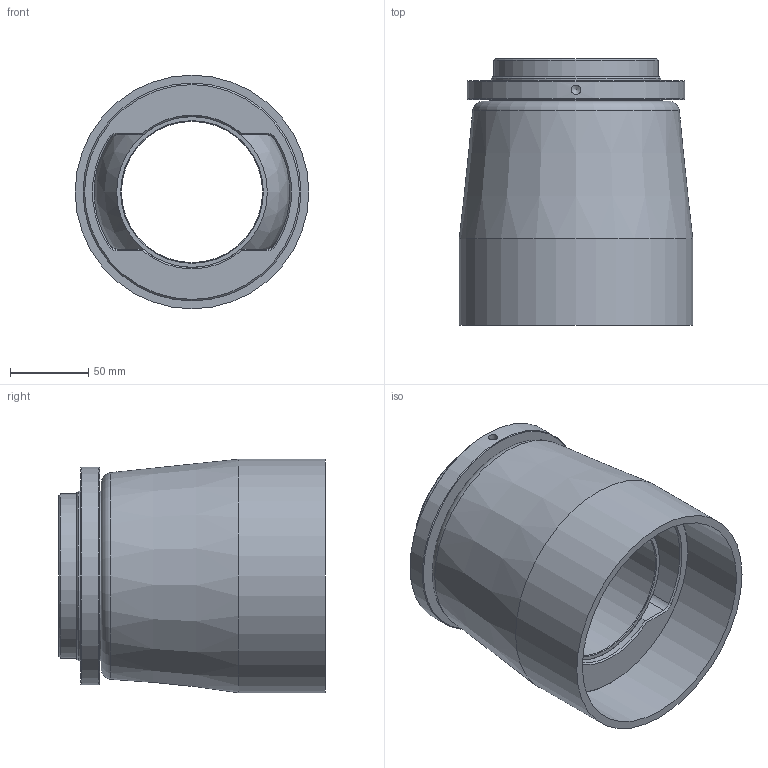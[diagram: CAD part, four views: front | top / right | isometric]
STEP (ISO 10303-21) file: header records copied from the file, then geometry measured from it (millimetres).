
FILE_DESCRIPTION(('STEP AP214'),'1');
FILE_NAME('Z:/J/Jp3/Palier/Palier-type1/3D TopSolid 2011/Serie 10.xx.xx/10.14.xx/10.14.09.step','2012-02-23T13:31:51',(' '),(' '),'Spatial InterOp 3D',' ',' ');
FILE_SCHEMA(('automotive_design'));
Length unit declared in the file: metre
Products named in the file (4): ecrou; boitier 09; rotule 09; housing 
Bounding box: 149 x 169.98 x 149 mm (x, y, z)
Volume: 1069596.1 mm3; surface area: 314325.3 mm2
Topology: 4 solids, 4 shells, 68 faces, 144 edges, 87 vertices
Faces by surface type: cylinder 22, cone 21, plane 20, torus 3, sphere 2
Full cylindrical faces by diameter (mm): 6 x2, 90 x1, 96 x1, 100 x1, 105 x1, 108 x4, 139 x3, 149 x1
Entity records: 2387 total; most frequent: CARTESIAN_POINT 454, DIRECTION 302, ORIENTED_EDGE 206, AXIS2_PLACEMENT_3D 137, EDGE_LOOP 112, EDGE_CURVE 103, FACE_OUTER_BOUND 87, VERTEX_POINT 81
